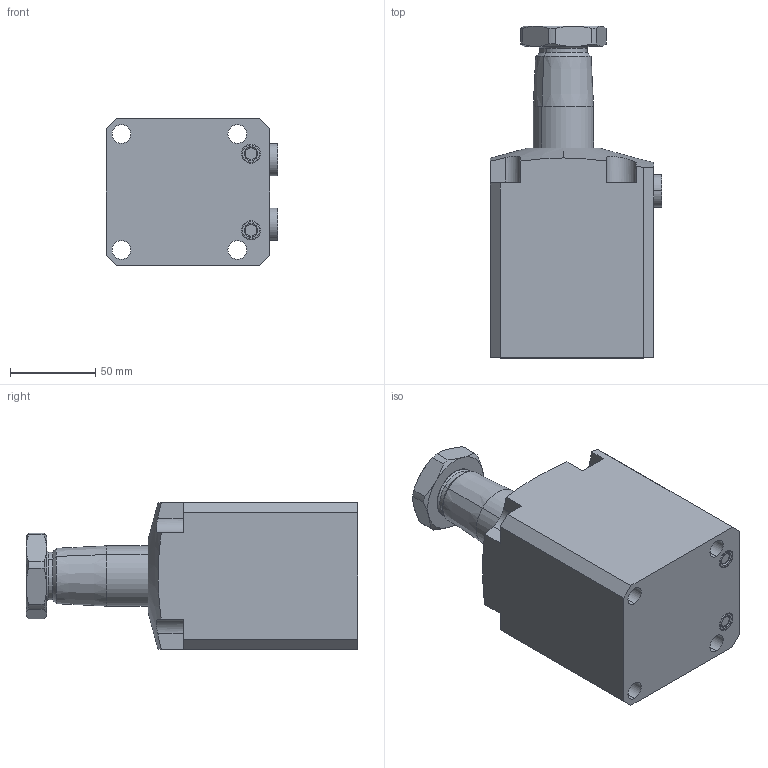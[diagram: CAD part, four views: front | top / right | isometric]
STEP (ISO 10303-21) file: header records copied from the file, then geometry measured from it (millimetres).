
FILE_DESCRIPTION(/* description */ (''),/* implementation_level */ '2;1');
FILE_NAME(/* name */ 'BRC16-RN45.stp',/* time_stamp */ '2025-01-04T16:44:35+08:00',/* author */ (''),/* organization */ (''),/* preprocessor_version */ 'ST-DEVELOPER v16.7',/* originating_system */ 'SIEMENS PLM Software NX 12.0',/* authorisation */ '');
FILE_SCHEMA (('AUTOMOTIVE_DESIGN { 1 0 10303 214 3 1 1 1 }'));
Length unit declared in the file: millimetre
Products named in the file (5): BRC16-RN45-04; BRC16-RN45-03; BRC16-RN45-02; BRC16-RN45-01; BTU16-RN45_step
Assembly tree (5 placements, depth 2):
  BTU16-RN45_step
    BRC16-RN45-01
    BRC16-RN45-02
    BRC16-RN45-03  x2
    BRC16-RN45-04
Bounding box: 100.8 x 194.6 x 86 mm (x, y, z)
Volume: 975611.2 mm3; surface area: 93044.8 mm2
Topology: 7 solids, 7 shells, 176 faces, 401 edges, 248 vertices
Faces by surface type: plane 68, cylinder 57, cone 34, torus 16, sphere 1
Full cylindrical faces by diameter (mm): 13 x2
Entity records: 4667 total; most frequent: CARTESIAN_POINT 964, DIRECTION 778, ORIENTED_EDGE 712, EDGE_CURVE 356, AXIS2_PLACEMENT_3D 313, VERTEX_POINT 222, EDGE_LOOP 180, ADVANCED_FACE 156
